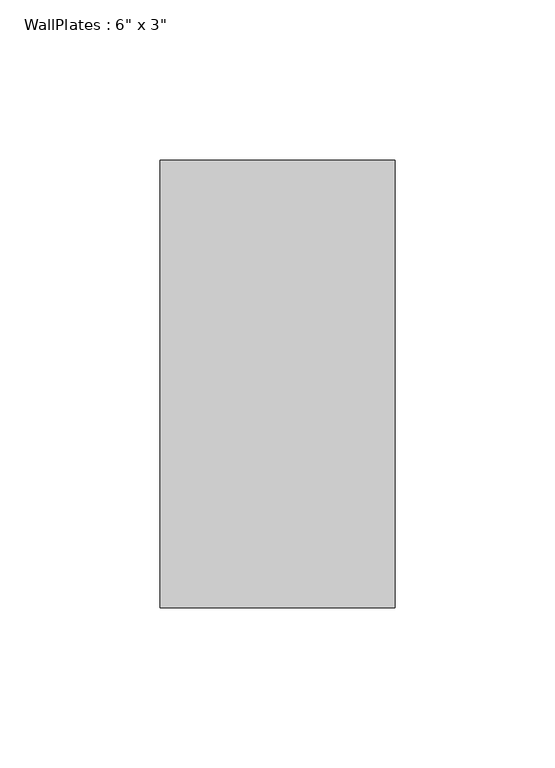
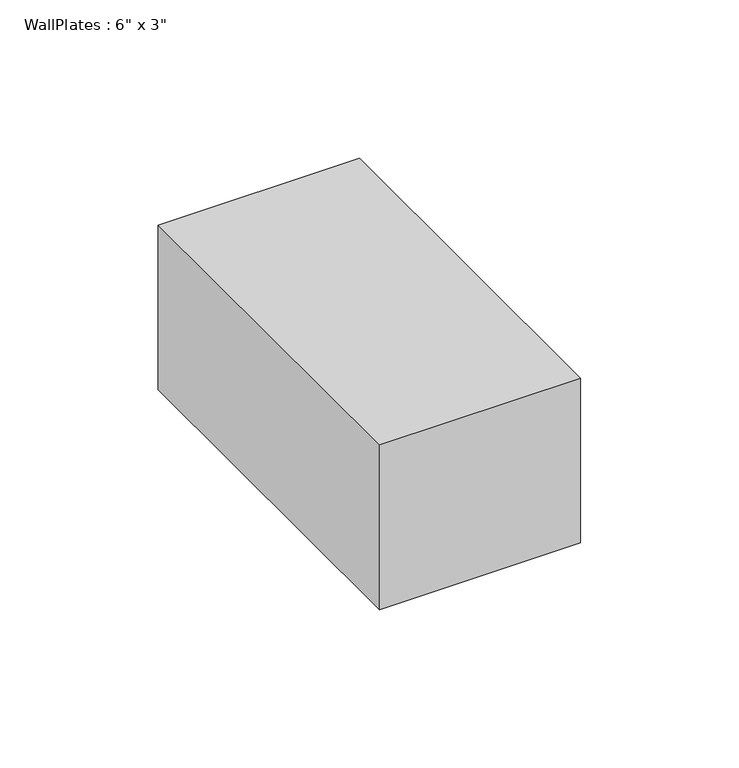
"""IFC4 building model written with IfcOpenShell, lengths in millimetres: beam geometry."""

from ifc_helpers import new_model, si_unit, frame, origin, place, context, project, spatial, polyline, outline, extrude, source, transform, mapped, element, save


def beam_8ec65034(model_context):
    return source(origin(), model_context, "Body", "SweptSolid", [
        extrude(outline(polyline([(-36.6773109, -69.85), (-36.6773109, 69.85), (36.6773109, 69.85), (36.6773109, -69.85), (-36.6773109, -69.85)])), frame((0.0, 0.0, -31.75), z_axis=(0.0, 0.0, 1.0), x_axis=(1.0, 0.0, 0.0)), (0.0, 0.0, 1.0), 63.5),
    ])


if __name__ == "__main__":
    model = new_model("IFC4")
    model_context = context("Model", 3, world=origin())
    ifc_project = project(units=[si_unit("LENGTHUNIT", "METRE", prefix="MILLI")], contexts=[model_context])
    site = spatial("IfcSite", under=ifc_project)
    building = spatial("IfcBuilding", under=site)
    placement = place(None, origin())
    beam_shape = beam_8ec65034(model_context)
    element("IfcBeam", 1, ObjectType="WallPlates : 6\" x 3\"", at=placement, inside=building, context=model_context, shape_type="MappedRepresentation", body=[
        mapped(beam_shape, transform((0.0, 0.0, 0.0), x_axis=(1.0, 0.0, 0.0), y_axis=(0.0, 1.0, 0.0), z_axis=(0.0, 0.0, 1.0))),
    ])
    save(model, "model.ifc")
